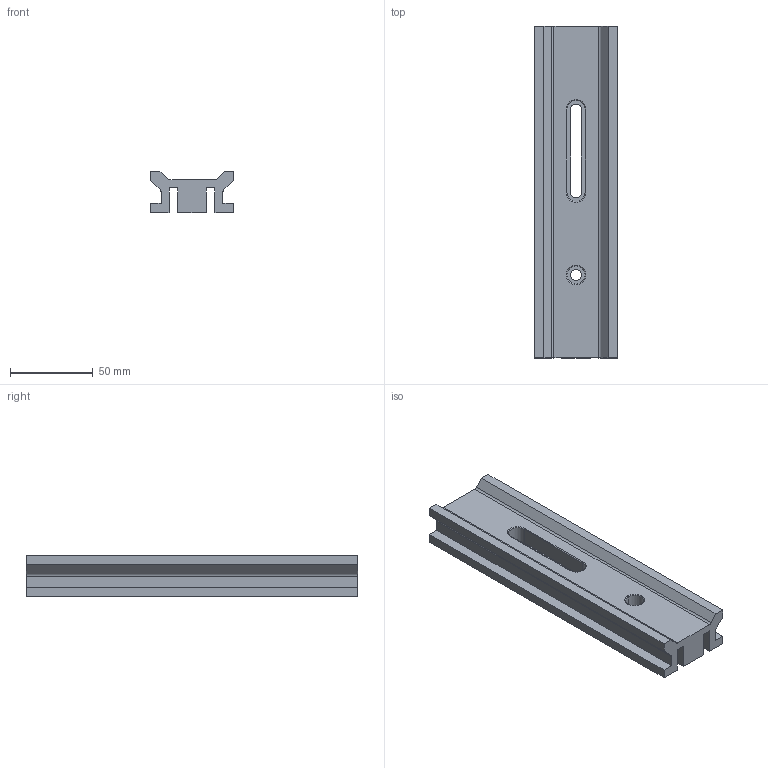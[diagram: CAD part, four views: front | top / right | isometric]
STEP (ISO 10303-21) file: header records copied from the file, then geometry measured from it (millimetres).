
FILE_DESCRIPTION((''),'2;1');
FILE_NAME('OOM-G200','2020-11-03T',('Administrator'),(''),'CREO PARAMETRIC BY PTC INC, 2015290','CREO PARAMETRIC BY PTC INC, 2015290','');
FILE_SCHEMA(('CONFIG_CONTROL_DESIGN'));
Length unit declared in the file: millimetre
Products named in the file (1): OOM-G200
Bounding box: 50 x 200 x 25 mm (x, y, z)
Volume: 145045.3 mm3; surface area: 50266.1 mm2
Topology: 1 solids, 1 shells, 50 faces, 132 edges, 86 vertices
Faces by surface type: plane 32, cylinder 14, torus 4
Entity records: 1588 total; most frequent: CARTESIAN_POINT 268, DIRECTION 266, ORIENTED_EDGE 264, EDGE_CURVE 132, VECTOR 98, LINE 98, VERTEX_POINT 86, AXIS2_PLACEMENT_3D 84
